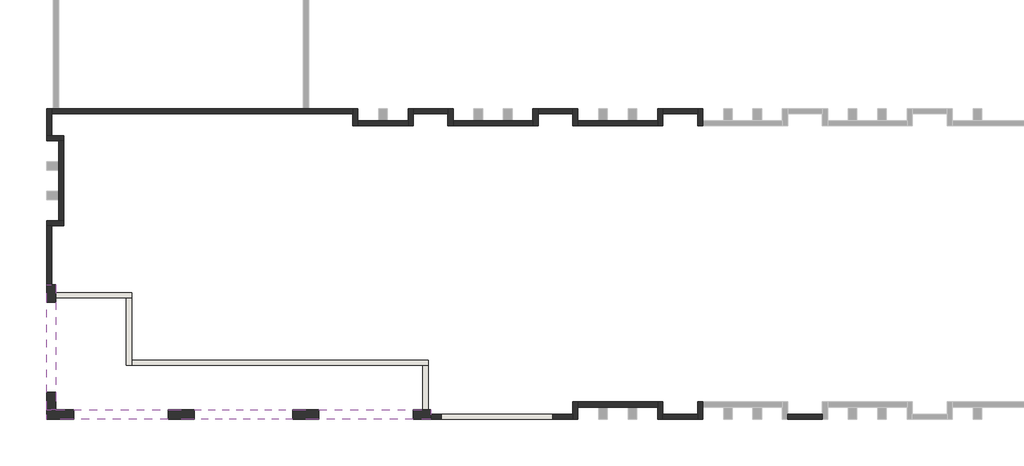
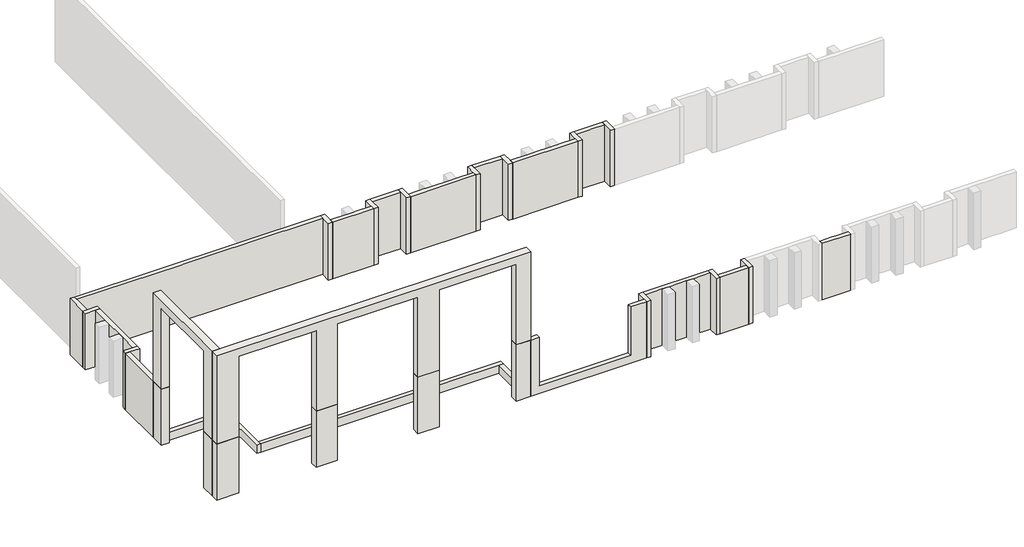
# One storey, part 1 of 2: 34 walls.
"""IFC4 building model written with IfcOpenShell, lengths in millimetres."""

from ifc_helpers import new_model, si_unit, frame, origin, place, context, project, spatial, polyline, outline, extrude, faceted_brep, element, save

model = new_model("IFC4")

# Units and contexts
model_context = context("Model", 3, world=origin())
ifc_project = project(units=[si_unit("LENGTHUNIT", "METRE", prefix="MILLI")], contexts=[model_context])

# Site, building, storey
site = spatial("IfcSite", under=ifc_project)
building = spatial("IfcBuilding", under=site)
storey = spatial("IfcBuildingStorey", under=building, Name="室外地坪", Elevation=-600.0)

# Walls
placement = place(None, origin())
element("IfcWall", 1, ObjectType="F1-24CM-外牆", at=placement, inside=storey, context=model_context, shape_type="Brep", body=[
    faceted_brep([(-38441.7970835, -20669.0484842, -600.0), (-38441.7970835, -17269.0484842, -600.0), (-38441.7970835, -17269.0484842, 3600.0), (-38441.7970835, -18129.0484842, 3600.0), (-38441.7970835, -18409.0484842, 3600.0), (-38441.7970835, -20669.0484842, 3600.0), (-38741.7970835, -20669.0484842, -600.0), (-38741.7970835, -20669.0484842, 3600.0), (-38741.7970835, -17269.0484842, 3600.0), (-38741.7970835, -17269.0484842, -600.0)], [[[0, 1, 2, 3, 4, 5]], [[6, 7, 8, 9]], [[1, 0, 6, 9]], [[5, 4, 3, 2, 8, 7]], [[0, 5, 7, 6]], [[2, 1, 9, 8]]]),
])
element("IfcWall", 2, ObjectType="F1-24CM-外牆", at=placement, inside=storey, context=model_context, shape_type="Brep", body=[
    faceted_brep([(-38441.7970835, -10809.0484842, -600.0), (-21081.7970835, -10809.0484842, -600.0), (-21081.7970835, -10809.0484842, 3600.0), (-23641.7970835, -10809.0484842, 3600.0), (-23921.7970835, -10809.0484842, 3600.0), (-30841.7970835, -10809.0484842, 3600.0), (-31121.7970835, -10809.0484842, 3600.0), (-38441.7970835, -10809.0484842, 3600.0), (-38441.7970835, -10509.0484842, -600.0), (-38441.7970835, -10509.0484842, 3600.0), (-21081.7970835, -10509.0484842, 3600.0), (-21081.7970835, -10509.0484842, -600.0), (-23621.7970835, -10509.0484842, -600.0), (-23921.7970835, -10509.0484842, -600.0)], [[[0, 1, 2, 3, 4, 5, 6, 7]], [[8, 9, 10, 11, 12, 13]], [[1, 0, 8, 13, 12, 11]], [[7, 6, 5, 4, 3, 2, 10, 9]], [[0, 7, 9, 8]], [[2, 1, 11, 10]]]),
])
element("IfcWall", 3, ObjectType="F1-24CM-外牆", at=placement, inside=storey, context=model_context, shape_type="Brep", body=[
    faceted_brep([(-38741.7970835, -17269.0484842, -600.0), (-38441.7970835, -17269.0484842, -600.0), (-37741.7970835, -17269.0484842, -600.0), (-37741.7970835, -17269.0484842, 3600.0), (-38441.7970835, -17269.0484842, 3600.0), (-38741.7970835, -17269.0484842, 3600.0), (-38741.7970835, -16969.0484842, -600.0), (-38741.7970835, -16969.0484842, 3600.0), (-38041.7970835, -16969.0484842, 3600.0), (-37741.7970835, -16969.0484842, 3600.0), (-37741.7970835, -16969.0484842, -600.0), (-38041.7970835, -16969.0484842, -600.0)], [[[0, 1, 2, 3, 4, 5]], [[6, 7, 8, 9, 10, 11]], [[2, 1, 0, 6, 11, 10]], [[5, 4, 3, 9, 8, 7]], [[3, 2, 10, 9]], [[0, 5, 7, 6]]]),
])
element("IfcWall", 4, ObjectType="F1-24CM-外牆", at=placement, inside=storey, context=model_context, shape_type="Brep", body=[
    faceted_brep([(-37741.7970835, -12069.0484842, -600.0), (-38441.7970835, -12069.0484842, -600.0), (-38741.7970835, -12069.0484842, -600.0), (-38741.7970835, -12069.0484842, 3600.0), (-38441.7970835, -12069.0484842, 3600.0), (-37741.7970835, -12069.0484842, 3600.0), (-37741.7970835, -12369.0484842, -600.0), (-37741.7970835, -12369.0484842, 3600.0), (-38041.7970835, -12369.0484842, 3600.0), (-38741.7970835, -12369.0484842, 3600.0), (-38741.7970835, -12369.0484842, -600.0), (-38041.7970835, -12369.0484842, -600.0)], [[[0, 1, 2, 3, 4, 5]], [[6, 7, 8, 9, 10, 11]], [[2, 1, 0, 6, 11, 10]], [[5, 4, 3, 9, 8, 7]], [[0, 5, 7, 6]], [[3, 2, 10, 9]]]),
])
element("IfcWall", 5, ObjectType="F1-24CM-外牆", at=placement, inside=storey, context=model_context, shape_type="Brep", body=[
    faceted_brep([(-37741.7970835, -16969.0484842, -600.0), (-37741.7970835, -12369.0484842, -600.0), (-37741.7970835, -12369.0484842, 3600.0), (-37741.7970835, -16969.0484842, 3600.0), (-38041.7970835, -16969.0484842, -600.0), (-38041.7970835, -16969.0484842, 3600.0), (-38041.7970835, -15769.0484842, 3600.0), (-38041.7970835, -15269.0484842, 3600.0), (-38041.7970835, -14069.0484842, 3600.0), (-38041.7970835, -13569.0484842, 3600.0), (-38041.7970835, -12369.0484842, 3600.0), (-38041.7970835, -12369.0484842, -600.0), (-38041.7970835, -13569.0484842, -600.0), (-38041.7970835, -14069.0484842, -600.0), (-38041.7970835, -15269.0484842, -600.0), (-38041.7970835, -15769.0484842, -600.0)], [[[0, 1, 2, 3]], [[4, 5, 6, 7, 8, 9, 10, 11, 12, 13, 14, 15]], [[1, 0, 4, 15, 14, 13, 12, 11]], [[3, 2, 10, 9, 8, 7, 6, 5]], [[2, 1, 11, 10]], [[0, 3, 5, 4]]]),
])
element("IfcWall", 6, ObjectType="F1-24CM-外牆", at=placement, inside=storey, context=model_context, shape_type="Brep", body=[
    faceted_brep([(-38441.7970835, -12069.0484842, -600.0), (-38441.7970835, -10809.0484842, -600.0), (-38441.7970835, -10509.0484842, -600.0), (-38441.7970835, -10509.0484842, 3600.0), (-38441.7970835, -10809.0484842, 3600.0), (-38441.7970835, -12069.0484842, 3600.0), (-38741.7970835, -12069.0484842, -600.0), (-38741.7970835, -12069.0484842, 3600.0), (-38741.7970835, -10509.0484842, 3600.0), (-38741.7970835, -10509.0484842, -600.0)], [[[0, 1, 2, 3, 4, 5]], [[6, 7, 8, 9]], [[2, 1, 0, 6, 9]], [[5, 4, 3, 8, 7]], [[3, 2, 9, 8]], [[0, 5, 7, 6]]]),
])
element("IfcWall", 7, ObjectType="F1-24CM-外牆", at=placement, inside=storey, context=model_context, shape_type="Brep", body=[
    faceted_brep([(-1181.7970835, -10509.0484842, -600.0), (-1181.7970835, -10809.0484842, -600.0), (-1181.7970835, -11509.0484842, -600.0), (-1181.7970835, -11509.0484842, 3600.0), (-1181.7970835, -10809.0484842, 3600.0), (-1181.7970835, -10509.0484842, 3600.0), (-881.7970835, -10509.0484842, -600.0), (-881.7970835, -10509.0484842, 3600.0), (-881.7970835, -11209.0484842, 3600.0), (-881.7970835, -11509.0484842, 3600.0), (-881.7970835, -11509.0484842, -600.0), (-881.7970835, -11209.0484842, -600.0)], [[[0, 1, 2, 3, 4, 5]], [[6, 7, 8, 9, 10, 11]], [[2, 1, 0, 6, 11, 10]], [[5, 4, 3, 9, 8, 7]], [[0, 5, 7, 6]], [[3, 2, 10, 9]]]),
])
element("IfcWall", 8, ObjectType="F1-24CM-外牆", at=placement, inside=storey, context=model_context, shape_type="Brep", body=[
    faceted_brep([(-8081.7970835, -11509.0484842, -600.0), (-3481.7970835, -11509.0484842, -600.0), (-3481.7970835, -11509.0484842, 3600.0), (-8081.7970835, -11509.0484842, 3600.0), (-8081.7970835, -11209.0484842, -600.0), (-8081.7970835, -11209.0484842, 3600.0), (-6881.7970835, -11209.0484842, 3600.0), (-6381.7970835, -11209.0484842, 3600.0), (-5181.7970835, -11209.0484842, 3600.0), (-4681.7970835, -11209.0484842, 3600.0), (-3481.7970835, -11209.0484842, 3600.0), (-3481.7970835, -11209.0484842, -600.0), (-4681.7970835, -11209.0484842, -600.0), (-5181.7970835, -11209.0484842, -600.0), (-6381.7970835, -11209.0484842, -600.0), (-6881.7970835, -11209.0484842, -600.0)], [[[0, 1, 2, 3]], [[4, 5, 6, 7, 8, 9, 10, 11, 12, 13, 14, 15]], [[1, 0, 4, 15, 14, 13, 12, 11]], [[3, 2, 10, 9, 8, 7, 6, 5]], [[0, 3, 5, 4]], [[2, 1, 11, 10]]]),
])
element("IfcWall", 9, ObjectType="F1-24CM-外牆", at=placement, inside=storey, context=model_context, shape_type="Brep", body=[
    faceted_brep([(-8381.7970835, -10509.0484842, -600.0), (-8381.7970835, -10809.0484842, -600.0), (-8381.7970835, -11509.0484842, -600.0), (-8381.7970835, -11509.0484842, 3600.0), (-8381.7970835, -10809.0484842, 3600.0), (-8381.7970835, -10509.0484842, 3600.0), (-8081.7970835, -10509.0484842, -600.0), (-8081.7970835, -10509.0484842, 3600.0), (-8081.7970835, -11209.0484842, 3600.0), (-8081.7970835, -11509.0484842, 3600.0), (-8081.7970835, -11509.0484842, -600.0), (-8081.7970835, -11209.0484842, -600.0)], [[[0, 1, 2, 3, 4, 5]], [[6, 7, 8, 9, 10, 11]], [[2, 1, 0, 6, 11, 10]], [[5, 4, 3, 9, 8, 7]], [[0, 5, 7, 6]], [[3, 2, 10, 9]]]),
])
element("IfcWall", 10, ObjectType="F1-24CM-外牆", at=placement, inside=storey, context=model_context, shape_type="Brep", body=[
    faceted_brep([(-3181.7970835, -11509.0484842, -600.0), (-3181.7970835, -10809.0484842, -600.0), (-3181.7970835, -10509.0484842, -600.0), (-3181.7970835, -10509.0484842, 3600.0), (-3181.7970835, -10809.0484842, 3600.0), (-3181.7970835, -11509.0484842, 3600.0), (-3481.7970835, -11509.0484842, -600.0), (-3481.7970835, -11509.0484842, 3600.0), (-3481.7970835, -11209.0484842, 3600.0), (-3481.7970835, -10509.0484842, 3600.0), (-3481.7970835, -10509.0484842, -600.0), (-3481.7970835, -11209.0484842, -600.0)], [[[0, 1, 2, 3, 4, 5]], [[6, 7, 8, 9, 10, 11]], [[2, 1, 0, 6, 11, 10]], [[5, 4, 3, 9, 8, 7]], [[3, 2, 10, 9]], [[0, 5, 7, 6]]]),
])
element("IfcWall", 11, ObjectType="F1-24CM-外牆", at=placement, inside=storey, context=model_context, shape_type="Brep", body=[
    faceted_brep([(-15281.7970835, -11509.0484842, -600.0), (-10681.7970835, -11509.0484842, -600.0), (-10681.7970835, -11509.0484842, 3600.0), (-15281.7970835, -11509.0484842, 3600.0), (-15281.7970835, -11209.0484842, -600.0), (-15281.7970835, -11209.0484842, 3600.0), (-14081.7970835, -11209.0484842, 3600.0), (-13581.7970835, -11209.0484842, 3600.0), (-12381.7970835, -11209.0484842, 3600.0), (-11881.7970835, -11209.0484842, 3600.0), (-10681.7970835, -11209.0484842, 3600.0), (-10681.7970835, -11209.0484842, -600.0), (-11881.7970835, -11209.0484842, -600.0), (-12381.7970835, -11209.0484842, -600.0), (-13581.7970835, -11209.0484842, -600.0), (-14081.7970835, -11209.0484842, -600.0)], [[[0, 1, 2, 3]], [[4, 5, 6, 7, 8, 9, 10, 11, 12, 13, 14, 15]], [[1, 0, 4, 15, 14, 13, 12, 11]], [[3, 2, 10, 9, 8, 7, 6, 5]], [[2, 1, 11, 10]], [[0, 3, 5, 4]]]),
])
element("IfcWall", 12, ObjectType="F1-24CM-外牆", at=placement, inside=storey, context=model_context, shape_type="Brep", body=[
    faceted_brep([(-15581.7970835, -10509.0484842, -600.0), (-15581.7970835, -10809.0484842, -600.0), (-15581.7970835, -11509.0484842, -600.0), (-15581.7970835, -11509.0484842, 3600.0), (-15581.7970835, -10809.0484842, 3600.0), (-15581.7970835, -10509.0484842, 3600.0), (-15281.7970835, -10509.0484842, -600.0), (-15281.7970835, -10509.0484842, 3600.0), (-15281.7970835, -11209.0484842, 3600.0), (-15281.7970835, -11509.0484842, 3600.0), (-15281.7970835, -11509.0484842, -600.0), (-15281.7970835, -11209.0484842, -600.0)], [[[0, 1, 2, 3, 4, 5]], [[6, 7, 8, 9, 10, 11]], [[2, 1, 0, 6, 11, 10]], [[5, 4, 3, 9, 8, 7]], [[0, 5, 7, 6]], [[3, 2, 10, 9]]]),
])
element("IfcWall", 13, ObjectType="F1-24CM-外牆", at=placement, inside=storey, context=model_context, shape_type="Brep", body=[
    faceted_brep([(-10381.7970835, -11509.0484842, -600.0), (-10381.7970835, -10809.0484842, -600.0), (-10381.7970835, -10509.0484842, -600.0), (-10381.7970835, -10509.0484842, 3600.0), (-10381.7970835, -10809.0484842, 3600.0), (-10381.7970835, -11509.0484842, 3600.0), (-10681.7970835, -11509.0484842, -600.0), (-10681.7970835, -11509.0484842, 3600.0), (-10681.7970835, -11209.0484842, 3600.0), (-10681.7970835, -10509.0484842, 3600.0), (-10681.7970835, -10509.0484842, -600.0), (-10681.7970835, -11209.0484842, -600.0)], [[[0, 1, 2, 3, 4, 5]], [[6, 7, 8, 9, 10, 11]], [[2, 1, 0, 6, 11, 10]], [[5, 4, 3, 9, 8, 7]], [[3, 2, 10, 9]], [[0, 5, 7, 6]]]),
])
element("IfcWall", 14, ObjectType="F1-24CM-外牆", at=placement, inside=storey, context=model_context, shape_type="Brep", body=[
    faceted_brep([(-20781.7970835, -11509.0484842, 3600.0), (-20781.7970835, -11509.0484842, -600.0), (-17881.7970835, -11509.0484842, -600.0), (-17881.7970835, -11509.0484842, 3600.0), (-20781.7970835, -11209.0484842, -600.0), (-20781.7970835, -11209.0484842, 3600.0), (-19581.7970835, -11209.0484842, 3600.0), (-19081.7970835, -11209.0484842, 3600.0), (-17881.7970835, -11209.0484842, 3600.0), (-17881.7970835, -11209.0484842, -600.0), (-19081.7970835, -11209.0484842, -600.0), (-19581.7970835, -11209.0484842, -600.0)], [[[0, 1, 2, 3]], [[4, 5, 6, 7, 8, 9, 10, 11]], [[2, 1, 4, 11, 10, 9]], [[0, 3, 8, 7, 6, 5]], [[3, 2, 9, 8]], [[0, 5, 4, 1]]]),
])
element("IfcWall", 15, ObjectType="F1-24CM-外牆", at=placement, inside=storey, context=model_context, shape_type="Brep", body=[
    faceted_brep([(-21081.7970835, -10509.0484842, -600.0), (-21081.7970835, -10809.0484842, -600.0), (-21081.7970835, -11509.0484842, -600.0), (-21081.7970835, -11509.0484842, 0.0), (-21081.7970835, -11509.0484842, 3600.0), (-21081.7970835, -10809.0484842, 3600.0), (-21081.7970835, -10509.0484842, 3600.0), (-20781.7970835, -10509.0484842, -600.0), (-20781.7970835, -10509.0484842, 3600.0), (-20781.7970835, -11209.0484842, 3600.0), (-20781.7970835, -11509.0484842, 3600.0), (-20781.7970835, -11509.0484842, -600.0), (-20781.7970835, -11209.0484842, -600.0), (-20801.7970835, -11509.0484842, 3600.0)], [[[0, 1, 2, 3, 4, 5, 6]], [[7, 8, 9, 10, 11, 12]], [[2, 1, 0, 7, 12, 11]], [[6, 5, 4, 13, 10, 9, 8]], [[0, 6, 8, 7]], [[2, 11, 10, 13, 4, 3]]]),
])
element("IfcWall", 16, ObjectType="F1-24CM-外牆", at=placement, inside=storey, context=model_context, shape_type="Brep", body=[
    faceted_brep([(-17581.7970835, -11509.0484842, -600.0), (-17581.7970835, -10809.0484842, -600.0), (-17581.7970835, -10509.0484842, -600.0), (-17581.7970835, -10509.0484842, 3600.0), (-17581.7970835, -10809.0484842, 3600.0), (-17581.7970835, -11509.0484842, 3600.0), (-17881.7970835, -11509.0484842, -600.0), (-17881.7970835, -11509.0484842, 3600.0), (-17881.7970835, -11209.0484842, 3600.0), (-17881.7970835, -10509.0484842, 3600.0), (-17881.7970835, -10509.0484842, -600.0), (-17881.7970835, -11209.0484842, -600.0)], [[[0, 1, 2, 3, 4, 5]], [[6, 7, 8, 9, 10, 11]], [[2, 1, 0, 6, 11, 10]], [[5, 4, 3, 9, 8, 7]], [[3, 2, 10, 9]], [[0, 5, 7, 6]]]),
])
element("IfcWall", 17, ObjectType="F1-24CM-外牆", at=placement, inside=storey, context=model_context, shape_type="Brep", body=[
    faceted_brep([(-3181.7970835, -10809.0484842, -600.0), (-1181.7970835, -10809.0484842, -600.0), (-1181.7970835, -10809.0484842, 3600.0), (-2041.7970835, -10809.0484842, 3600.0), (-2321.7970835, -10809.0484842, 3600.0), (-3181.7970835, -10809.0484842, 3600.0), (-3181.7970835, -10509.0484842, -600.0), (-3181.7970835, -10509.0484842, 3600.0), (-1181.7970835, -10509.0484842, 3600.0), (-1181.7970835, -10509.0484842, -600.0)], [[[0, 1, 2, 3, 4, 5]], [[6, 7, 8, 9]], [[1, 0, 6, 9]], [[5, 4, 3, 2, 8, 7]], [[0, 5, 7, 6]], [[2, 1, 9, 8]]]),
])
element("IfcWall", 18, ObjectType="F1-24CM-外牆", at=placement, inside=storey, context=model_context, shape_type="Brep", body=[
    faceted_brep([(-10381.7970835, -10809.0484842, -600.0), (-8381.7970835, -10809.0484842, -600.0), (-8381.7970835, -10809.0484842, 3600.0), (-9241.7970835, -10809.0484842, 3600.0), (-9521.7970835, -10809.0484842, 3600.0), (-10381.7970835, -10809.0484842, 3600.0), (-10381.7970835, -10509.0484842, -600.0), (-10381.7970835, -10509.0484842, 3600.0), (-8381.7970835, -10509.0484842, 3600.0), (-8381.7970835, -10509.0484842, -600.0)], [[[0, 1, 2, 3, 4, 5]], [[6, 7, 8, 9]], [[1, 0, 6, 9]], [[5, 4, 3, 2, 8, 7]], [[0, 5, 7, 6]], [[2, 1, 9, 8]]]),
])
element("IfcWall", 19, ObjectType="F1-24CM-外牆", at=placement, inside=storey, context=model_context, shape_type="SweptSolid", body=[
    extrude(outline(polyline([(-15581.7970835, -10809.0484842), (-17581.7970835, -10809.0484842), (-17581.7970835, -10509.0484842), (-15581.7970835, -10509.0484842), (-15581.7970835, -10809.0484842)])), frame((0.0, 0.0, -600.0), z_axis=(0.0, 0.0, 1.0), x_axis=(1.0, 0.0, 0.0)), (0.0, 0.0, 1.0), 4200.0),
])
element("IfcWall", 20, ObjectType="F1-24CM-外牆", at=placement, inside=storey, context=model_context, shape_type="Brep", body=[
    faceted_brep([(-881.7970835, -28429.0484842, -600.0), (-881.7970835, -27729.0484842, -600.0), (-881.7970835, -27429.0484842, -600.0), (-881.7970835, -27429.0484842, 3600.0), (-881.7970835, -27729.0484842, 3600.0), (-881.7970835, -28429.0484842, 3600.0), (-1181.7970835, -28429.0484842, -600.0), (-1181.7970835, -28429.0484842, 3600.0), (-1181.7970835, -28129.0484842, 3600.0), (-1181.7970835, -27429.0484842, 3600.0), (-1181.7970835, -27429.0484842, -600.0), (-1181.7970835, -28129.0484842, -600.0)], [[[0, 1, 2, 3, 4, 5]], [[6, 7, 8, 9, 10, 11]], [[2, 1, 0, 6, 11, 10]], [[5, 4, 3, 9, 8, 7]], [[0, 5, 7, 6]], [[3, 2, 10, 9]]]),
])
element("IfcWall", 21, ObjectType="F1-24CM-外牆", at=placement, inside=storey, context=model_context, shape_type="Brep", body=[
    faceted_brep([(-8081.7970835, -27729.0484842, -600.0), (-6881.7970835, -27729.0484842, -600.0), (-6381.7970835, -27729.0484842, -600.0), (-5181.7970835, -27729.0484842, -600.0), (-4681.7970835, -27729.0484842, -600.0), (-3481.7970835, -27729.0484842, -600.0), (-3481.7970835, -27729.0484842, 3600.0), (-4681.7970835, -27729.0484842, 3600.0), (-5181.7970835, -27729.0484842, 3600.0), (-6381.7970835, -27729.0484842, 3600.0), (-6881.7970835, -27729.0484842, 3600.0), (-8081.7970835, -27729.0484842, 3600.0), (-8081.7970835, -27429.0484842, -600.0), (-8081.7970835, -27429.0484842, 3600.0), (-3481.7970835, -27429.0484842, 3600.0), (-3481.7970835, -27429.0484842, -600.0)], [[[0, 1, 2, 3, 4, 5, 6, 7, 8, 9, 10, 11]], [[12, 13, 14, 15]], [[5, 4, 3, 2, 1, 0, 12, 15]], [[11, 10, 9, 8, 7, 6, 14, 13]], [[0, 11, 13, 12]], [[6, 5, 15, 14]]]),
])
element("IfcWall", 22, ObjectType="F1-24CM-外牆", at=placement, inside=storey, context=model_context, shape_type="Brep", body=[
    faceted_brep([(-8081.7970835, -28429.0484842, -600.0), (-8081.7970835, -27729.0484842, -600.0), (-8081.7970835, -27429.0484842, -600.0), (-8081.7970835, -27429.0484842, 3600.0), (-8081.7970835, -27729.0484842, 3600.0), (-8081.7970835, -28429.0484842, 3600.0), (-8381.7970835, -28429.0484842, -600.0), (-8381.7970835, -28429.0484842, 3600.0), (-8381.7970835, -28129.0484842, 3600.0), (-8381.7970835, -27429.0484842, 3600.0), (-8381.7970835, -27429.0484842, -600.0), (-8381.7970835, -28129.0484842, -600.0)], [[[0, 1, 2, 3, 4, 5]], [[6, 7, 8, 9, 10, 11]], [[2, 1, 0, 6, 11, 10]], [[5, 4, 3, 9, 8, 7]], [[0, 5, 7, 6]], [[3, 2, 10, 9]]]),
])
element("IfcWall", 23, ObjectType="F1-24CM-外牆", at=placement, inside=storey, context=model_context, shape_type="Brep", body=[
    faceted_brep([(-3481.7970835, -27429.0484842, -600.0), (-3481.7970835, -27729.0484842, -600.0), (-3481.7970835, -28429.0484842, -600.0), (-3481.7970835, -28429.0484842, 3600.0), (-3481.7970835, -27729.0484842, 3600.0), (-3481.7970835, -27429.0484842, 3600.0), (-3181.7970835, -27429.0484842, -600.0), (-3181.7970835, -27429.0484842, 3600.0), (-3181.7970835, -28129.0484842, 3600.0), (-3181.7970835, -28429.0484842, 3600.0), (-3181.7970835, -28429.0484842, -600.0), (-3181.7970835, -28129.0484842, -600.0)], [[[0, 1, 2, 3, 4, 5]], [[6, 7, 8, 9, 10, 11]], [[2, 1, 0, 6, 11, 10]], [[5, 4, 3, 9, 8, 7]], [[3, 2, 10, 9]], [[0, 5, 7, 6]]]),
])
element("IfcWall", 24, ObjectType="F1-24CM-外牆", at=placement, inside=storey, context=model_context, shape_type="Brep", body=[
    faceted_brep([(-8381.7970835, -28129.0484842, -600.0), (-16581.7970835, -28129.0484842, -600.0), (-16581.7970835, -28129.0484842, 3600.0), (-15981.7970835, -28129.0484842, 3600.0), (-15981.7970835, -28129.0484842, 0.0), (-9521.7970835, -28129.0484842, 0.0), (-9521.7970835, -28129.0484842, 3600.0), (-9241.7970835, -28129.0484842, 3600.0), (-8381.7970835, -28129.0484842, 3600.0), (-16581.7970835, -28429.0484842, -600.0), (-8381.7970835, -28429.0484842, -600.0), (-8381.7970835, -28429.0484842, 3600.0), (-9521.7970835, -28429.0484842, 3600.0), (-9521.7970835, -28429.0484842, 0.0), (-15981.7970835, -28429.0484842, 0.0), (-15981.7970835, -28429.0484842, 3600.0), (-16581.7970835, -28429.0484842, 3600.0)], [[[0, 1, 2, 3, 4, 5, 6, 7, 8]], [[9, 10, 11, 12, 13, 14, 15, 16]], [[1, 0, 10, 9]], [[2, 1, 9, 16]], [[2, 16, 15, 3]], [[11, 8, 7, 6, 12]], [[0, 8, 11, 10]], [[14, 4, 3, 15]], [[5, 13, 12, 6]], [[4, 14, 13, 5]]]),
])
element("IfcWall", 25, ObjectType="F1-24CM-外牆", at=placement, inside=storey, context=model_context, shape_type="Brep", body=[
    faceted_brep([(-1181.7970835, -28129.0484842, -600.0), (-3181.7970835, -28129.0484842, -600.0), (-3181.7970835, -28129.0484842, 3600.0), (-2321.7970835, -28129.0484842, 3600.0), (-2041.7970835, -28129.0484842, 3600.0), (-1181.7970835, -28129.0484842, 3600.0), (-1181.7970835, -28429.0484842, -600.0), (-1181.7970835, -28429.0484842, 3600.0), (-3181.7970835, -28429.0484842, 3600.0), (-3181.7970835, -28429.0484842, -600.0)], [[[0, 1, 2, 3, 4, 5]], [[6, 7, 8, 9]], [[1, 0, 6, 9]], [[5, 4, 3, 2, 8, 7]], [[0, 5, 7, 6]], [[2, 1, 9, 8]]]),
])
element("IfcWall", 26, ObjectType="F1-24CM-外牆", at=placement, inside=storey, context=model_context, shape_type="Brep", body=[
    faceted_brep([(6018.2029165, -28129.0484842, -600.0), (4018.2029165, -28129.0484842, -600.0), (4018.2029165, -28129.0484842, 3600.0), (4883.2029165, -28129.0484842, 3600.0), (5163.2029165, -28129.0484842, 3600.0), (6018.2029165, -28129.0484842, 3600.0), (6018.2029165, -28429.0484842, -600.0), (6018.2029165, -28429.0484842, 3600.0), (4018.2029165, -28429.0484842, 3600.0), (4018.2029165, -28429.0484842, -600.0)], [[[0, 1, 2, 3, 4, 5]], [[6, 7, 8, 9]], [[1, 0, 6, 9]], [[5, 4, 3, 2, 8, 7]], [[0, 5, 7, 6]], [[2, 1, 9, 8]]]),
])
element("IfcWall", 27, ObjectType="F1-24CM-外牆", at=placement, inside=storey, context=model_context, shape_type="Brep", body=[
    faceted_brep([(-38471.7970835, -21419.0484842, -600.0), (-34131.7970835, -21419.0484842, -600.0), (-33831.7970835, -21419.0484842, -600.0), (-33831.7970835, -21419.0484842, 0.0), (-34131.7970835, -21419.0484842, 0.0), (-38471.7970835, -21419.0484842, 0.0), (-38471.7970835, -21119.0484842, -600.0), (-38471.7970835, -21119.0484842, 0.0), (-33831.7970835, -21119.0484842, 0.0), (-33831.7970835, -21119.0484842, -600.0)], [[[0, 1, 2, 3, 4, 5]], [[6, 7, 8, 9]], [[2, 1, 0, 6, 9]], [[5, 4, 3, 8, 7]], [[0, 5, 7, 6]], [[3, 2, 9, 8]]]),
])
element("IfcWall", 28, ObjectType="F1-24CM-外牆", at=placement, inside=storey, context=model_context, shape_type="Brep", body=[
    faceted_brep([(-34131.7970835, -21419.0484842, -600.0), (-34131.7970835, -25319.0484842, -600.0), (-34131.7970835, -25319.0484842, 0.0), (-34131.7970835, -21419.0484842, 0.0), (-33831.7970835, -21419.0484842, -600.0), (-33831.7970835, -21419.0484842, 0.0), (-33831.7970835, -25019.0484842, 0.0), (-33831.7970835, -25319.0484842, 0.0), (-33831.7970835, -25319.0484842, -600.0), (-33831.7970835, -25019.0484842, -600.0)], [[[0, 1, 2, 3]], [[4, 5, 6, 7, 8, 9]], [[1, 0, 4, 9, 8]], [[3, 2, 7, 6, 5]], [[0, 3, 5, 4]], [[2, 1, 8, 7]]]),
])
element("IfcWall", 29, ObjectType="F1-24CM-外牆", at=placement, inside=storey, context=model_context, shape_type="Brep", body=[
    faceted_brep([(-33831.7970835, -25319.0484842, -600.0), (-17031.7970835, -25319.0484842, -600.0), (-16731.7970835, -25319.0484842, -600.0), (-16731.7970835, -25319.0484842, 0.0), (-17031.7970835, -25319.0484842, 0.0), (-33831.7970835, -25319.0484842, 0.0), (-33831.7970835, -25019.0484842, -600.0), (-33831.7970835, -25019.0484842, 0.0), (-16731.7970835, -25019.0484842, 0.0), (-16731.7970835, -25019.0484842, -600.0)], [[[0, 1, 2, 3, 4, 5]], [[6, 7, 8, 9]], [[2, 1, 0, 6, 9]], [[5, 4, 3, 8, 7]], [[0, 5, 7, 6]], [[3, 2, 9, 8]]]),
])
element("IfcWall", 30, ObjectType="F1-24CM-外牆", at=placement, inside=storey, context=model_context, shape_type="SweptSolid", body=[
    extrude(outline(polyline([(-17031.7970835, -28269.0484842), (-17031.7970835, -25319.0484842), (-16731.7970835, -25319.0484842), (-16731.7970835, -28269.0484842), (-17031.7970835, -28269.0484842)])), frame((0.0, 0.0, -600.0), z_axis=(0.0, 0.0, 1.0), x_axis=(1.0, 0.0, 0.0)), (0.0, 0.0, 1.0), 600.0),
])
element("IfcWall", 31, ObjectType="F1-50CM-外牆", at=placement, inside=storey, context=model_context, shape_type="Brep", body=[
    faceted_brep([(-17581.7970835, -27889.0484842, -600.0), (-17581.7970835, -27889.0484842, 3600.0), (-16581.7970835, -27889.0484842, 3600.0), (-16581.7970835, -27889.0484842, -600.0), (-17581.7970835, -28429.0484842, -600.0), (-16581.7970835, -28429.0484842, -600.0), (-16581.7970835, -28429.0484842, 3600.0), (-17581.7970835, -28429.0484842, 3600.0)], [[[0, 1, 2, 3]], [[4, 5, 6, 7]], [[3, 2, 6, 5]], [[0, 3, 5, 4]], [[1, 0, 4, 7]], [[2, 1, 7, 6]]]),
    faceted_brep([(-30231.7970835, -27889.0484842, -600.0), (-31731.7970835, -27889.0484842, -600.0), (-31731.7970835, -27889.0484842, 3600.0), (-30231.7970835, -27889.0484842, 3600.0), (-30231.7970835, -28429.0484842, -600.0), (-30231.7970835, -28429.0484842, 3600.0), (-31731.7970835, -28429.0484842, 3600.0), (-31731.7970835, -28429.0484842, -600.0)], [[[0, 1, 2, 3]], [[4, 5, 6, 7]], [[1, 0, 4, 7]], [[2, 1, 7, 6]], [[3, 2, 6, 5]], [[0, 3, 5, 4]]]),
    faceted_brep([(-23031.7970835, -27889.0484842, -600.0), (-24531.7970835, -27889.0484842, -600.0), (-24531.7970835, -27889.0484842, 3600.0), (-23031.7970835, -27889.0484842, 3600.0), (-23031.7970835, -28429.0484842, -600.0), (-23031.7970835, -28429.0484842, 3600.0), (-24531.7970835, -28429.0484842, 3600.0), (-24531.7970835, -28429.0484842, -600.0)], [[[0, 1, 2, 3]], [[4, 5, 6, 7]], [[1, 0, 4, 7]], [[2, 1, 7, 6]], [[3, 2, 6, 5]], [[0, 3, 5, 4]]]),
    faceted_brep([(-38741.7970835, -27889.0484842, 3600.0), (-38201.7970835, -27889.0484842, 3600.0), (-37181.7970835, -27889.0484842, 3600.0), (-37181.7970835, -27889.0484842, -600.0), (-38201.7970835, -27889.0484842, -600.0), (-38741.7970835, -27889.0484842, -600.0), (-38741.7970835, -28429.0484842, 3600.0), (-38741.7970835, -28429.0484842, -600.0), (-37181.7970835, -28429.0484842, -600.0), (-37181.7970835, -28429.0484842, 3600.0)], [[[0, 1, 2, 3, 4, 5]], [[6, 7, 8, 9]], [[2, 1, 0, 6, 9]], [[3, 2, 9, 8]], [[5, 4, 3, 8, 7]], [[0, 5, 7, 6]]]),
])
element("IfcWall", 32, ObjectType="F2-F5-50CM-外牆", at=placement, inside=storey, context=model_context, shape_type="Brep", body=[
    faceted_brep([(-38741.7970835, -27889.0484842, 10200.0), (-38201.7970835, -27889.0484842, 10200.0), (-16581.7970835, -27889.0484842, 10200.0), (-16581.7970835, -27889.0484842, 3600.0), (-17581.7970835, -27889.0484842, 3600.0), (-17581.7970835, -27889.0484842, 9600.0), (-23031.7970835, -27889.0484842, 9600.0), (-23031.7970835, -27889.0484842, 3600.0), (-24531.7970835, -27889.0484842, 3600.0), (-24531.7970835, -27889.0484842, 9600.0), (-30231.7970835, -27889.0484842, 9600.0), (-30231.7970835, -27889.0484842, 3600.0), (-31731.7970835, -27889.0484842, 3600.0), (-31731.7970835, -27889.0484842, 9600.0), (-37181.7970835, -27889.0484842, 9600.0), (-37181.7970835, -27889.0484842, 3600.0), (-38201.7970835, -27889.0484842, 3600.0), (-38741.7970835, -27889.0484842, 3600.0), (-38741.7970835, -28429.0484842, 10200.0), (-38741.7970835, -28429.0484842, 3600.0), (-37181.7970835, -28429.0484842, 3600.0), (-37181.7970835, -28429.0484842, 9600.0), (-31731.7970835, -28429.0484842, 9600.0), (-31731.7970835, -28429.0484842, 3600.0), (-30231.7970835, -28429.0484842, 3600.0), (-30231.7970835, -28429.0484842, 9600.0), (-24531.7970835, -28429.0484842, 9600.0), (-24531.7970835, -28429.0484842, 3600.0), (-23031.7970835, -28429.0484842, 3600.0), (-23031.7970835, -28429.0484842, 9600.0), (-17581.7970835, -28429.0484842, 9600.0), (-17581.7970835, -28429.0484842, 3600.0), (-16581.7970835, -28429.0484842, 3600.0), (-16581.7970835, -28429.0484842, 10200.0)], [[[0, 1, 2, 3, 4, 5, 6, 7, 8, 9, 10, 11, 12, 13, 14, 15, 16, 17]], [[18, 19, 20, 21, 22, 23, 24, 25, 26, 27, 28, 29, 30, 31, 32, 33]], [[2, 1, 0, 18, 33]], [[3, 2, 33, 32]], [[17, 16, 15, 20, 19]], [[4, 3, 32, 31]], [[5, 4, 31, 30]], [[6, 5, 30, 29]], [[7, 6, 29, 28]], [[8, 7, 28, 27]], [[9, 8, 27, 26]], [[10, 9, 26, 25]], [[11, 10, 25, 24]], [[12, 11, 24, 23]], [[13, 12, 23, 22]], [[14, 13, 22, 21]], [[15, 14, 21, 20]], [[0, 17, 19, 18]]]),
])
element("IfcWall", 33, ObjectType="F1-50CM-外牆", at=placement, inside=storey, context=model_context, shape_type="SweptSolid", body=[
    extrude(outline(polyline([(-38201.7970835, -20669.0484842), (-38201.7970835, -21669.0484842), (-38741.7970835, -21669.0484842), (-38741.7970835, -20669.0484842), (-38201.7970835, -20669.0484842)])), frame((0.0, 0.0, -600.0), z_axis=(0.0, 0.0, 1.0), x_axis=(1.0, 0.0, 0.0)), (0.0, 0.0, 1.0), 4200.0),
    extrude(outline(polyline([(-38201.7970835, -26869.0484842), (-38201.7970835, -27889.0484842), (-38741.7970835, -27889.0484842), (-38741.7970835, -26869.0484842), (-38201.7970835, -26869.0484842)])), frame((0.0, 0.0, -600.0), z_axis=(0.0, 0.0, 1.0), x_axis=(1.0, 0.0, 0.0)), (0.0, 0.0, 1.0), 4200.0),
])
element("IfcWall", 34, ObjectType="F2-F5-50CM-外牆", at=placement, inside=storey, context=model_context, shape_type="SweptSolid", body=[
    extrude(outline(polyline([(-20669.0484842, 10200.0), (-20669.0484842, 3600.0), (-21669.0484842, 3600.0), (-21669.0484842, 9600.0), (-26869.0484842, 9600.0), (-26869.0484842, 3600.0), (-27889.0484842, 3600.0), (-27889.0484842, 10200.0), (-20669.0484842, 10200.0)])), frame((-38741.7970835, 0.0, 0.0), z_axis=(1.0, 0.0, 0.0), x_axis=(0.0, 1.0, 0.0)), (0.0, 0.0, 1.0), 540.0),
])

save(model, "model.ifc")
